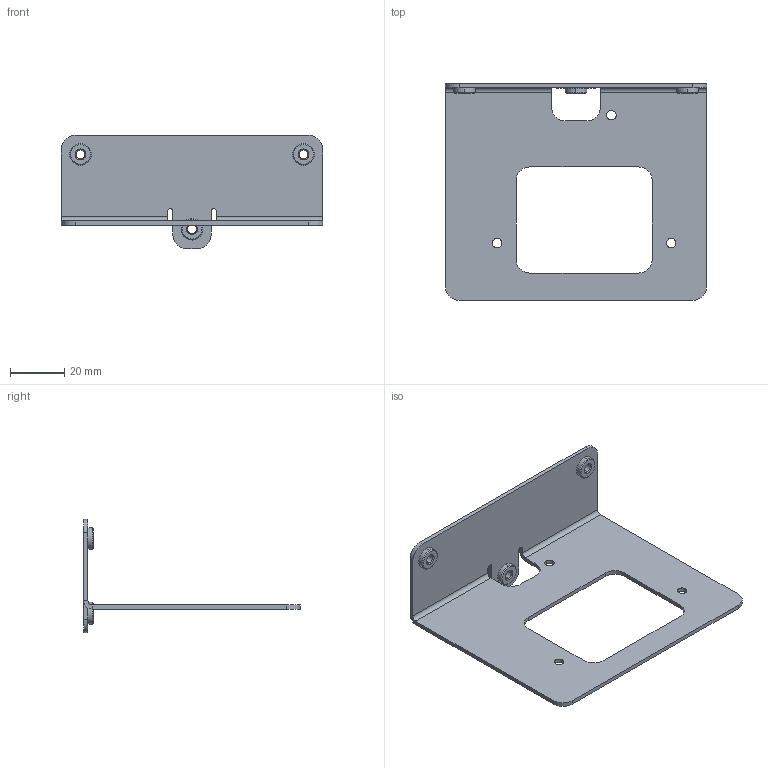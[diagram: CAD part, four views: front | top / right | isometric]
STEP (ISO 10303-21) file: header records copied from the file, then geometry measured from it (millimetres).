
FILE_DESCRIPTION((''),'2;1');
FILE_NAME('1391617_ASM','2013-08-01T',('smar'),('Sierra Wireless'),'PRO/ENGINEER BY PARAMETRIC TECHNOLOGY CORPORATION, 2011180','PRO/ENGINEER BY PARAMETRIC TECHNOLOGY CORPORATION, 2011180','');
FILE_SCHEMA(('AUTOMOTIVE_DESIGN { 1 0 10303 214 1 1 1 1 }'));
Length unit declared in the file: millimetre
Products named in the file (3): 1391617; CLSM4; 1391617_ASM
Assembly tree (4 placements, depth 2):
  1391617_ASM
    1391617
    CLSM4  x3
Bounding box: 96 x 79.54 x 41.66 mm (x, y, z)
Volume: 13114.1 mm3; surface area: 18517.6 mm2
Topology: 4 solids, 4 shells, 116 faces, 272 edges, 168 vertices
Faces by surface type: cylinder 54, plane 38, cone 24
Entity records: 3760 total; most frequent: DIRECTION 442, CARTESIAN_POINT 404, ORIENTED_EDGE 384, PRESENTATION_STYLE_ASSIGNMENT 194, STYLED_ITEM 194, CURVE_STYLE 192, EDGE_CURVE 192, AXIS2_PLACEMENT_3D 167
